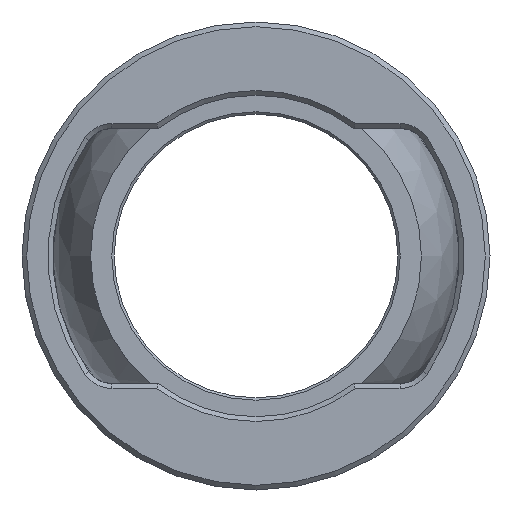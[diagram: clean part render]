
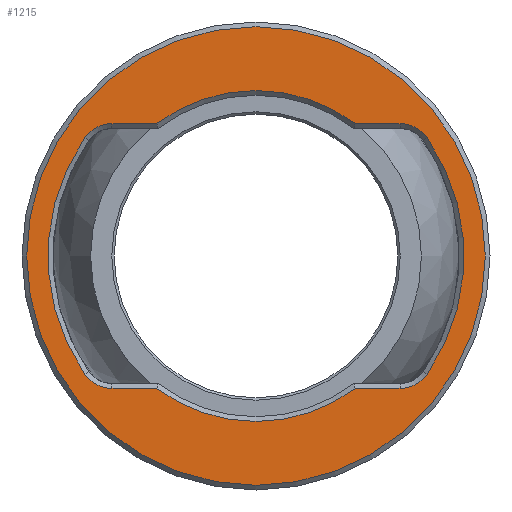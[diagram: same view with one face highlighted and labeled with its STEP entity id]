
A CAD part, front view. The second image highlights one B-rep face of the part: STEP entity #1215.
In plain terms, the highlighted planar face has unit normal (0, -1, 0).
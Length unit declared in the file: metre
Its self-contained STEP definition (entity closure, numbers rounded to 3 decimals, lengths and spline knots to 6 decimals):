
#1215=ADVANCED_FACE('',(#2496,#2497),#2498,.F.);
#2496=FACE_OUTER_BOUND('',#4891,.T.);
#2497=FACE_BOUND('',#4892,.T.);
#2498=PLANE('',#4893);
#4891=EDGE_LOOP('',(#7173));
#4892=EDGE_LOOP('',(#7174,#7175,#7176,#7177,#7178,#7179,#7180,#7181,#7182,#7183,#7184,#7185));
#4893=AXIS2_PLACEMENT_3D('',#7186,#7187,#7188);
#7173=ORIENTED_EDGE('',*,*,#7759,.F.);
#7174=ORIENTED_EDGE('',*,*,#7761,.T.);
#7175=ORIENTED_EDGE('',*,*,#7762,.T.);
#7176=ORIENTED_EDGE('',*,*,#7727,.T.);
#7177=ORIENTED_EDGE('',*,*,#7701,.T.);
#7178=ORIENTED_EDGE('',*,*,#7763,.T.);
#7179=ORIENTED_EDGE('',*,*,#7764,.T.);
#7180=ORIENTED_EDGE('',*,*,#7755,.T.);
#7181=ORIENTED_EDGE('',*,*,#7765,.T.);
#7182=ORIENTED_EDGE('',*,*,#7766,.T.);
#7183=ORIENTED_EDGE('',*,*,#7717,.T.);
#7184=ORIENTED_EDGE('',*,*,#7736,.T.);
#7185=ORIENTED_EDGE('',*,*,#7744,.T.);
#7186=CARTESIAN_POINT('',(0.564679,0.447289,0.0));
#7187=DIRECTION('',(0.0,1.0,0.0));
#7188=DIRECTION('',(0.0,0.0,1.0));
#7701=EDGE_CURVE('',#7824,#7828,#7830,.T.);
#7717=EDGE_CURVE('',#7852,#7856,#7858,.T.);
#7727=EDGE_CURVE('',#7873,#7824,#7874,.T.);
#7736=EDGE_CURVE('',#7856,#7886,#7888,.T.);
#7744=EDGE_CURVE('',#7886,#7898,#7900,.T.);
#7755=EDGE_CURVE('',#7911,#7915,#7917,.T.);
#7759=EDGE_CURVE('',#7922,#7922,#7923,.T.);
#7761=EDGE_CURVE('',#7898,#7925,#7926,.T.);
#7762=EDGE_CURVE('',#7925,#7873,#7927,.T.);
#7763=EDGE_CURVE('',#7828,#7928,#7929,.T.);
#7764=EDGE_CURVE('',#7928,#7911,#7930,.T.);
#7765=EDGE_CURVE('',#7915,#7931,#7932,.T.);
#7766=EDGE_CURVE('',#7931,#7852,#7933,.T.);
#7824=VERTEX_POINT('',#8005);
#7828=VERTEX_POINT('',#8013);
#7830=LINE('',#8016,#8017);
#7852=VERTEX_POINT('',#8041);
#7856=VERTEX_POINT('',#8049);
#7858=LINE('',#8052,#8053);
#7873=VERTEX_POINT('',#8068);
#7874=CIRCLE('',#8069,0.035);
#7886=VERTEX_POINT('',#8084);
#7888=CIRCLE('',#8087,0.007);
#7898=VERTEX_POINT('',#8097);
#7900=CIRCLE('',#8100,0.044);
#7911=VERTEX_POINT('',#8113);
#7915=VERTEX_POINT('',#8118);
#7917=CIRCLE('',#8121,0.007);
#7922=VERTEX_POINT('',#8126);
#7923=CIRCLE('',#8127,0.0485);
#7925=VERTEX_POINT('',#8129);
#7926=CIRCLE('',#8130,0.007);
#7927=LINE('',#8131,#8132);
#7928=VERTEX_POINT('',#8133);
#7929=CIRCLE('',#8134,0.007);
#7930=CIRCLE('',#8135,0.044);
#7931=VERTEX_POINT('',#8136);
#7932=LINE('',#8137,#8138);
#7933=CIRCLE('',#8139,0.035);
#8005=CARTESIAN_POINT('',(0.620679,0.447289,0.028));
#8013=CARTESIAN_POINT('',(0.630143,0.447289,0.028));
#8016=CARTESIAN_POINT('',(0.630143,0.447289,0.028));
#8017=VECTOR('',#8290,1.0);
#8041=CARTESIAN_POINT('',(0.578679,0.447289,-0.028));
#8049=CARTESIAN_POINT('',(0.569216,0.447289,-0.028));
#8052=CARTESIAN_POINT('',(0.569216,0.447289,-0.028));
#8053=VECTOR('',#8313,1.0);
#8068=CARTESIAN_POINT('',(0.578679,0.447289,0.028));
#8069=AXIS2_PLACEMENT_3D('',#8329,#8330,#8331);
#8084=CARTESIAN_POINT('',(0.563453,0.447289,-0.024973));
#8087=AXIS2_PLACEMENT_3D('',#8345,#8346,#8347);
#8097=CARTESIAN_POINT('',(0.563453,0.447289,0.024973));
#8100=AXIS2_PLACEMENT_3D('',#8358,#8359,#8360);
#8113=CARTESIAN_POINT('',(0.635906,0.447289,-0.024973));
#8118=CARTESIAN_POINT('',(0.630143,0.447289,-0.028));
#8121=AXIS2_PLACEMENT_3D('',#8374,#8375,#8376);
#8126=CARTESIAN_POINT('',(0.599679,0.447289,0.0485));
#8127=AXIS2_PLACEMENT_3D('',#8380,#8381,#8382);
#8129=CARTESIAN_POINT('',(0.569216,0.447289,0.028));
#8130=AXIS2_PLACEMENT_3D('',#8383,#8384,#8385);
#8131=CARTESIAN_POINT('',(0.577408,0.447289,0.028));
#8132=VECTOR('',#8386,1.0);
#8133=CARTESIAN_POINT('',(0.635906,0.447289,0.024973));
#8134=AXIS2_PLACEMENT_3D('',#8387,#8388,#8389);
#8135=AXIS2_PLACEMENT_3D('',#8390,#8391,#8392);
#8136=CARTESIAN_POINT('',(0.620679,0.447289,-0.028));
#8137=CARTESIAN_POINT('',(0.621951,0.447289,-0.028));
#8138=VECTOR('',#8393,1.0);
#8139=AXIS2_PLACEMENT_3D('',#8394,#8395,#8396);
#8290=DIRECTION('',(1.0,0.0,0.));
#8313=DIRECTION('',(-1.0,0.0,0.));
#8329=CARTESIAN_POINT('',(0.599679,0.447289,0.0));
#8330=DIRECTION('',(0.0,1.0,0.0));
#8331=DIRECTION('',(0.0,0.0,1.0));
#8345=CARTESIAN_POINT('',(0.569216,0.447289,-0.021));
#8346=DIRECTION('',(0.0,1.0,0.0));
#8347=DIRECTION('',(0.0,0.0,1.0));
#8358=CARTESIAN_POINT('',(0.599679,0.447289,0.));
#8359=DIRECTION('',(0.0,1.0,0.0));
#8360=DIRECTION('',(0.0,0.0,1.0));
#8374=CARTESIAN_POINT('',(0.630143,0.447289,-0.021));
#8375=DIRECTION('',(0.0,1.0,0.0));
#8376=DIRECTION('',(0.0,0.0,1.0));
#8380=CARTESIAN_POINT('',(0.599679,0.447289,0.0));
#8381=DIRECTION('',(0.0,1.0,0.0));
#8382=DIRECTION('',(0.0,0.0,1.0));
#8383=CARTESIAN_POINT('',(0.569216,0.447289,0.021));
#8384=DIRECTION('',(0.0,1.0,0.0));
#8385=DIRECTION('',(0.0,0.0,1.0));
#8386=DIRECTION('',(1.0,0.0,0.));
#8387=CARTESIAN_POINT('',(0.630143,0.447289,0.021));
#8388=DIRECTION('',(0.0,1.0,0.0));
#8389=DIRECTION('',(0.0,0.0,1.0));
#8390=CARTESIAN_POINT('',(0.599679,0.447289,0.));
#8391=DIRECTION('',(0.0,1.0,0.0));
#8392=DIRECTION('',(0.0,0.0,1.0));
#8393=DIRECTION('',(-1.0,0.0,0.));
#8394=CARTESIAN_POINT('',(0.599679,0.447289,0.0));
#8395=DIRECTION('',(0.0,1.0,0.0));
#8396=DIRECTION('',(0.0,0.0,1.0));
